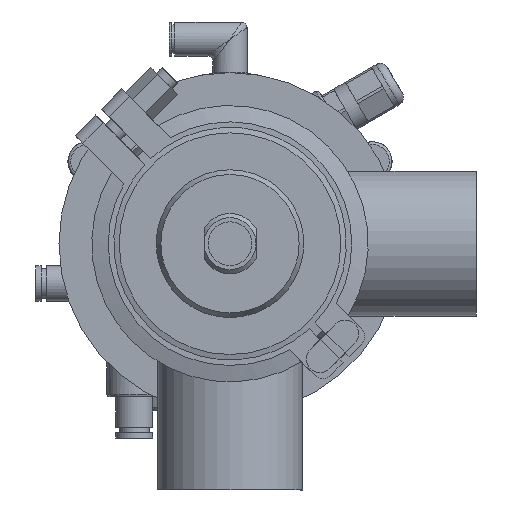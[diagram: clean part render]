
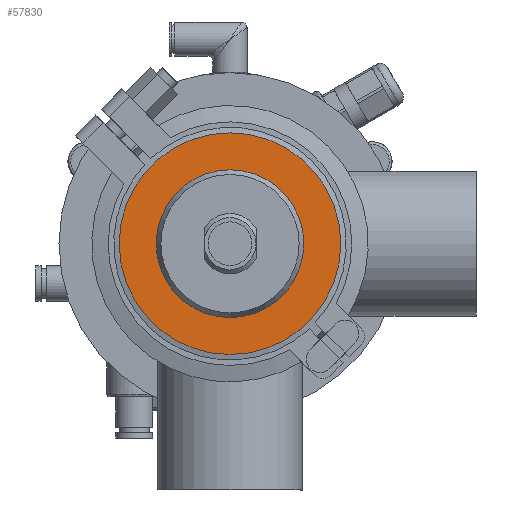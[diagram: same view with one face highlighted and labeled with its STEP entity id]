
A CAD part, front view. The second image highlights one B-rep face of the part: STEP entity #57830.
In plain terms, the highlighted planar face has unit normal (0, -1, 0).
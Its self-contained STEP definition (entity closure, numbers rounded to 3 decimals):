
#427 = CARTESIAN_POINT ( 'NONE',  ( 0., -13., 40.5 ) ) ;
#2748 = AXIS2_PLACEMENT_3D ( 'NONE', #7702, #45865, #36249 ) ;
#3974 = CARTESIAN_POINT ( 'NONE',  ( 0., -13., 0. ) ) ;
#7702 = CARTESIAN_POINT ( 'NONE',  ( 0., -13., 0. ) ) ;
#8070 = DIRECTION ( 'NONE',  ( 0., 1., 0. ) ) ;
#11544 = EDGE_CURVE ( 'NONE', #43040, #43040, #41668, .T. ) ;
#12387 = VERTEX_POINT ( 'NONE', #32770 ) ;
#14052 = DIRECTION ( 'NONE',  ( 0., 0., -1. ) ) ;
#17390 = ORIENTED_EDGE ( 'NONE', *, *, #50519, .T. ) ;
#18712 = PLANE ( 'NONE',  #44538 ) ;
#19614 = CIRCLE ( 'NONE', #2748, 27. ) ;
#21881 = EDGE_LOOP ( 'NONE', ( #17390 ) ) ;
#22324 = DIRECTION ( 'NONE',  ( 0., 0., 1. ) ) ;
#22775 = AXIS2_PLACEMENT_3D ( 'NONE', #3974, #8070, #22324 ) ;
#23343 = FACE_BOUND ( 'NONE', #21881, .T. ) ;
#32770 = CARTESIAN_POINT ( 'NONE',  ( 0., -13., 27. ) ) ;
#33013 = ORIENTED_EDGE ( 'NONE', *, *, #11544, .F. ) ;
#36249 = DIRECTION ( 'NONE',  ( 0., 0., 1. ) ) ;
#37658 = CARTESIAN_POINT ( 'NONE',  ( -40.5, -13., 0. ) ) ;
#41668 = CIRCLE ( 'NONE', #22775, 40.5 ) ;
#43040 = VERTEX_POINT ( 'NONE', #427 ) ;
#43241 = FACE_OUTER_BOUND ( 'NONE', #54901, .T. ) ;
#44538 = AXIS2_PLACEMENT_3D ( 'NONE', #37658, #56609, #14052 ) ;
#45865 = DIRECTION ( 'NONE',  ( 0., 1., 0. ) ) ;
#50519 = EDGE_CURVE ( 'NONE', #12387, #12387, #19614, .T. ) ;
#54901 = EDGE_LOOP ( 'NONE', ( #33013 ) ) ;
#56609 = DIRECTION ( 'NONE',  ( 0., -1., 0. ) ) ;
#57830 = ADVANCED_FACE ( 'NONE', ( #23343, #43241 ), #18712, .T. ) ;
